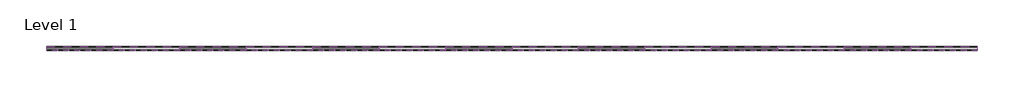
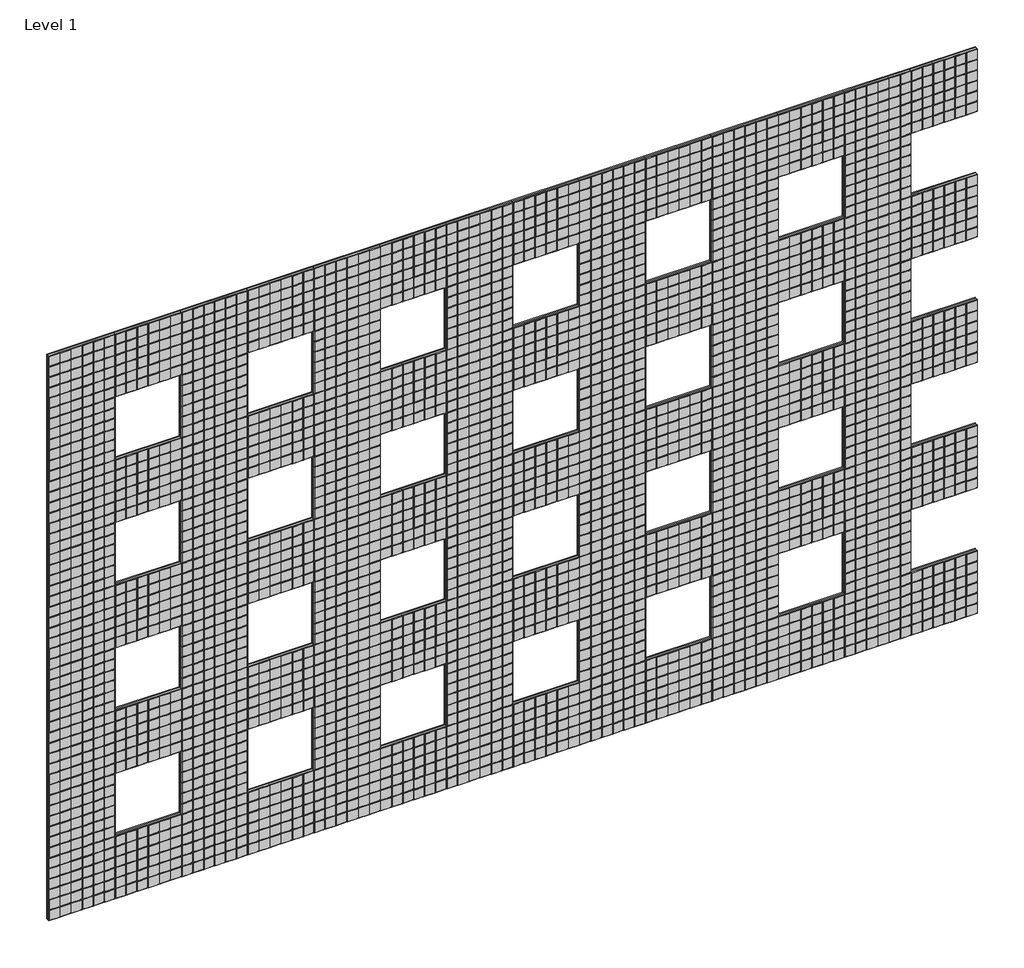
# One storey: 98 proxies.
"""IFC4 building model written with IfcOpenShell, lengths in millimetres."""

from ifc_helpers import new_model, si_unit, origin, place, context, project, spatial, transform, mapped, element, save
from components import pattern_element_a_fabd5e50, pattern_element_b_e8d87f1d, pattern_element_c_66ba2969

model = new_model("IFC4")

# Units and contexts
model_context = context("Model", 3, world=origin())
ifc_project = project(units=[si_unit("LENGTHUNIT", "METRE", prefix="MILLI")], contexts=[model_context])

# Site, building, storey
site = spatial("IfcSite", under=ifc_project)
building = spatial("IfcBuilding", under=site)
storey = spatial("IfcBuildingStorey", under=building, Name="Level 1", Elevation=0.0)

# Proxies
placement = place(None, origin())
pattern_element_a_shape = pattern_element_a_fabd5e50(model_context)
element("IfcBuildingElementProxy", 1, Name="FilzFelt_Waffle_Manufacturing Drawing : Pattern Element A", ObjectType="FilzFelt_Waffle_Manufacturing Drawing : Pattern Element A", at=placement, inside=storey, context=model_context, shape_type="MappedRepresentation", body=[
    mapped(pattern_element_a_shape, transform((-11214.5660217, 1047.5699583, 152.4), x_axis=(1.0, 0.0, 0.0), y_axis=(0.0, 0.0, 1.0), z_axis=(0.0, -1.0, 0.0))),
])
element("IfcBuildingElementProxy", 2, Name="FilzFelt_Waffle_Manufacturing Drawing : Pattern Element A", ObjectType="FilzFelt_Waffle_Manufacturing Drawing : Pattern Element A", at=placement, inside=storey, context=model_context, shape_type="MappedRepresentation", body=[
    mapped(pattern_element_a_shape, transform((-10604.9660217, 1047.5699583, 152.4), x_axis=(1.0, 0.0, 0.0), y_axis=(0.0, 0.0, 1.0), z_axis=(0.0, -1.0, 0.0))),
])
element("IfcBuildingElementProxy", 3, Name="FilzFelt_Waffle_Manufacturing Drawing : Pattern Element A", ObjectType="FilzFelt_Waffle_Manufacturing Drawing : Pattern Element A", at=placement, inside=storey, context=model_context, shape_type="MappedRepresentation", body=[
    mapped(pattern_element_a_shape, transform((-9995.3660217, 1047.5699583, 152.4), x_axis=(1.0, 0.0, 0.0), y_axis=(0.0, 0.0, 1.0), z_axis=(0.0, -1.0, 0.0))),
])
element("IfcBuildingElementProxy", 4, Name="FilzFelt_Waffle_Manufacturing Drawing : Pattern Element A", ObjectType="FilzFelt_Waffle_Manufacturing Drawing : Pattern Element A", at=placement, inside=storey, context=model_context, shape_type="MappedRepresentation", body=[
    mapped(pattern_element_a_shape, transform((-9385.7660217, 1047.5699583, 152.4), x_axis=(1.0, 0.0, 0.0), y_axis=(0.0, 0.0, 1.0), z_axis=(0.0, -1.0, 0.0))),
])
element("IfcBuildingElementProxy", 5, Name="FilzFelt_Waffle_Manufacturing Drawing : Pattern Element A", ObjectType="FilzFelt_Waffle_Manufacturing Drawing : Pattern Element A", at=placement, inside=storey, context=model_context, shape_type="MappedRepresentation", body=[
    mapped(pattern_element_a_shape, transform((-8776.1660217, 1047.5699583, 152.4), x_axis=(1.0, 0.0, 0.0), y_axis=(0.0, 0.0, 1.0), z_axis=(0.0, -1.0, 0.0))),
])
element("IfcBuildingElementProxy", 6, Name="FilzFelt_Waffle_Manufacturing Drawing : Pattern Element A", ObjectType="FilzFelt_Waffle_Manufacturing Drawing : Pattern Element A", at=placement, inside=storey, context=model_context, shape_type="MappedRepresentation", body=[
    mapped(pattern_element_a_shape, transform((-8166.5660217, 1047.5699583, 152.4), x_axis=(1.0, 0.0, 0.0), y_axis=(0.0, 0.0, 1.0), z_axis=(0.0, -1.0, 0.0))),
])
element("IfcBuildingElementProxy", 7, Name="FilzFelt_Waffle_Manufacturing Drawing : Pattern Element A", ObjectType="FilzFelt_Waffle_Manufacturing Drawing : Pattern Element A", at=placement, inside=storey, context=model_context, shape_type="MappedRepresentation", body=[
    mapped(pattern_element_a_shape, transform((-7556.9660217, 1047.5699583, 152.4), x_axis=(1.0, 0.0, 0.0), y_axis=(0.0, 0.0, 1.0), z_axis=(0.0, -1.0, 0.0))),
])
element("IfcBuildingElementProxy", 8, Name="FilzFelt_Waffle_Manufacturing Drawing : Pattern Element A", ObjectType="FilzFelt_Waffle_Manufacturing Drawing : Pattern Element A", at=placement, inside=storey, context=model_context, shape_type="MappedRepresentation", body=[
    mapped(pattern_element_a_shape, transform((-11214.5660217, 1047.5699583, 762.0), x_axis=(1.0, 0.0, 0.0), y_axis=(0.0, 0.0, 1.0), z_axis=(0.0, -1.0, 0.0))),
])
element("IfcBuildingElementProxy", 9, Name="FilzFelt_Waffle_Manufacturing Drawing : Pattern Element A", ObjectType="FilzFelt_Waffle_Manufacturing Drawing : Pattern Element A", at=placement, inside=storey, context=model_context, shape_type="MappedRepresentation", body=[
    mapped(pattern_element_a_shape, transform((-10604.9660217, 1047.5699583, 762.0), x_axis=(1.0, 0.0, 0.0), y_axis=(0.0, 0.0, 1.0), z_axis=(0.0, -1.0, 0.0))),
])
element("IfcBuildingElementProxy", 10, Name="FilzFelt_Waffle_Manufacturing Drawing : Pattern Element A", ObjectType="FilzFelt_Waffle_Manufacturing Drawing : Pattern Element A", at=placement, inside=storey, context=model_context, shape_type="MappedRepresentation", body=[
    mapped(pattern_element_a_shape, transform((-9995.3660217, 1047.5699583, 762.0), x_axis=(1.0, 0.0, 0.0), y_axis=(0.0, 0.0, 1.0), z_axis=(0.0, -1.0, 0.0))),
])
element("IfcBuildingElementProxy", 11, Name="FilzFelt_Waffle_Manufacturing Drawing : Pattern Element A", ObjectType="FilzFelt_Waffle_Manufacturing Drawing : Pattern Element A", at=placement, inside=storey, context=model_context, shape_type="MappedRepresentation", body=[
    mapped(pattern_element_a_shape, transform((-9385.7660217, 1047.5699583, 762.0), x_axis=(1.0, 0.0, 0.0), y_axis=(0.0, 0.0, 1.0), z_axis=(0.0, -1.0, 0.0))),
])
element("IfcBuildingElementProxy", 12, Name="FilzFelt_Waffle_Manufacturing Drawing : Pattern Element A", ObjectType="FilzFelt_Waffle_Manufacturing Drawing : Pattern Element A", at=placement, inside=storey, context=model_context, shape_type="MappedRepresentation", body=[
    mapped(pattern_element_a_shape, transform((-8776.1660217, 1047.5699583, 762.0), x_axis=(1.0, 0.0, 0.0), y_axis=(0.0, 0.0, 1.0), z_axis=(0.0, -1.0, 0.0))),
])
element("IfcBuildingElementProxy", 13, Name="FilzFelt_Waffle_Manufacturing Drawing : Pattern Element A", ObjectType="FilzFelt_Waffle_Manufacturing Drawing : Pattern Element A", at=placement, inside=storey, context=model_context, shape_type="MappedRepresentation", body=[
    mapped(pattern_element_a_shape, transform((-8166.5660217, 1047.5699583, 762.0), x_axis=(1.0, 0.0, 0.0), y_axis=(0.0, 0.0, 1.0), z_axis=(0.0, -1.0, 0.0))),
])
element("IfcBuildingElementProxy", 14, Name="FilzFelt_Waffle_Manufacturing Drawing : Pattern Element A", ObjectType="FilzFelt_Waffle_Manufacturing Drawing : Pattern Element A", at=placement, inside=storey, context=model_context, shape_type="MappedRepresentation", body=[
    mapped(pattern_element_a_shape, transform((-7556.9660217, 1047.5699583, 762.0), x_axis=(1.0, 0.0, 0.0), y_axis=(0.0, 0.0, 1.0), z_axis=(0.0, -1.0, 0.0))),
])
element("IfcBuildingElementProxy", 15, Name="FilzFelt_Waffle_Manufacturing Drawing : Pattern Element A", ObjectType="FilzFelt_Waffle_Manufacturing Drawing : Pattern Element A", at=placement, inside=storey, context=model_context, shape_type="MappedRepresentation", body=[
    mapped(pattern_element_a_shape, transform((-11214.5660217, 1047.5699583, 1371.6), x_axis=(1.0, 0.0, 0.0), y_axis=(0.0, 0.0, 1.0), z_axis=(0.0, -1.0, 0.0))),
])
element("IfcBuildingElementProxy", 16, Name="FilzFelt_Waffle_Manufacturing Drawing : Pattern Element A", ObjectType="FilzFelt_Waffle_Manufacturing Drawing : Pattern Element A", at=placement, inside=storey, context=model_context, shape_type="MappedRepresentation", body=[
    mapped(pattern_element_a_shape, transform((-10604.9660217, 1047.5699583, 1371.6), x_axis=(1.0, 0.0, 0.0), y_axis=(0.0, 0.0, 1.0), z_axis=(0.0, -1.0, 0.0))),
])
element("IfcBuildingElementProxy", 17, Name="FilzFelt_Waffle_Manufacturing Drawing : Pattern Element A", ObjectType="FilzFelt_Waffle_Manufacturing Drawing : Pattern Element A", at=placement, inside=storey, context=model_context, shape_type="MappedRepresentation", body=[
    mapped(pattern_element_a_shape, transform((-9995.3660217, 1047.5699583, 1371.6), x_axis=(1.0, 0.0, 0.0), y_axis=(0.0, 0.0, 1.0), z_axis=(0.0, -1.0, 0.0))),
])
element("IfcBuildingElementProxy", 18, Name="FilzFelt_Waffle_Manufacturing Drawing : Pattern Element A", ObjectType="FilzFelt_Waffle_Manufacturing Drawing : Pattern Element A", at=placement, inside=storey, context=model_context, shape_type="MappedRepresentation", body=[
    mapped(pattern_element_a_shape, transform((-9385.7660217, 1047.5699583, 1371.6), x_axis=(1.0, 0.0, 0.0), y_axis=(0.0, 0.0, 1.0), z_axis=(0.0, -1.0, 0.0))),
])
element("IfcBuildingElementProxy", 19, Name="FilzFelt_Waffle_Manufacturing Drawing : Pattern Element A", ObjectType="FilzFelt_Waffle_Manufacturing Drawing : Pattern Element A", at=placement, inside=storey, context=model_context, shape_type="MappedRepresentation", body=[
    mapped(pattern_element_a_shape, transform((-8776.1660217, 1047.5699583, 1371.6), x_axis=(1.0, 0.0, 0.0), y_axis=(0.0, 0.0, 1.0), z_axis=(0.0, -1.0, 0.0))),
])
element("IfcBuildingElementProxy", 20, Name="FilzFelt_Waffle_Manufacturing Drawing : Pattern Element A", ObjectType="FilzFelt_Waffle_Manufacturing Drawing : Pattern Element A", at=placement, inside=storey, context=model_context, shape_type="MappedRepresentation", body=[
    mapped(pattern_element_a_shape, transform((-8166.5660217, 1047.5699583, 1371.6), x_axis=(1.0, 0.0, 0.0), y_axis=(0.0, 0.0, 1.0), z_axis=(0.0, -1.0, 0.0))),
])
element("IfcBuildingElementProxy", 21, Name="FilzFelt_Waffle_Manufacturing Drawing : Pattern Element A", ObjectType="FilzFelt_Waffle_Manufacturing Drawing : Pattern Element A", at=placement, inside=storey, context=model_context, shape_type="MappedRepresentation", body=[
    mapped(pattern_element_a_shape, transform((-7556.9660217, 1047.5699583, 1371.6), x_axis=(1.0, 0.0, 0.0), y_axis=(0.0, 0.0, 1.0), z_axis=(0.0, -1.0, 0.0))),
])
element("IfcBuildingElementProxy", 22, Name="FilzFelt_Waffle_Manufacturing Drawing : Pattern Element A", ObjectType="FilzFelt_Waffle_Manufacturing Drawing : Pattern Element A", at=placement, inside=storey, context=model_context, shape_type="MappedRepresentation", body=[
    mapped(pattern_element_a_shape, transform((-11214.5660217, 1047.5699583, 1981.2), x_axis=(1.0, 0.0, 0.0), y_axis=(0.0, 0.0, 1.0), z_axis=(0.0, -1.0, 0.0))),
])
element("IfcBuildingElementProxy", 23, Name="FilzFelt_Waffle_Manufacturing Drawing : Pattern Element A", ObjectType="FilzFelt_Waffle_Manufacturing Drawing : Pattern Element A", at=placement, inside=storey, context=model_context, shape_type="MappedRepresentation", body=[
    mapped(pattern_element_a_shape, transform((-10604.9660217, 1047.5699583, 1981.2), x_axis=(1.0, 0.0, 0.0), y_axis=(0.0, 0.0, 1.0), z_axis=(0.0, -1.0, 0.0))),
])
element("IfcBuildingElementProxy", 24, Name="FilzFelt_Waffle_Manufacturing Drawing : Pattern Element A", ObjectType="FilzFelt_Waffle_Manufacturing Drawing : Pattern Element A", at=placement, inside=storey, context=model_context, shape_type="MappedRepresentation", body=[
    mapped(pattern_element_a_shape, transform((-9995.3660217, 1047.5699583, 1981.2), x_axis=(1.0, 0.0, 0.0), y_axis=(0.0, 0.0, 1.0), z_axis=(0.0, -1.0, 0.0))),
])
element("IfcBuildingElementProxy", 25, Name="FilzFelt_Waffle_Manufacturing Drawing : Pattern Element A", ObjectType="FilzFelt_Waffle_Manufacturing Drawing : Pattern Element A", at=placement, inside=storey, context=model_context, shape_type="MappedRepresentation", body=[
    mapped(pattern_element_a_shape, transform((-9385.7660217, 1047.5699583, 1981.2), x_axis=(1.0, 0.0, 0.0), y_axis=(0.0, 0.0, 1.0), z_axis=(0.0, -1.0, 0.0))),
])
element("IfcBuildingElementProxy", 26, Name="FilzFelt_Waffle_Manufacturing Drawing : Pattern Element A", ObjectType="FilzFelt_Waffle_Manufacturing Drawing : Pattern Element A", at=placement, inside=storey, context=model_context, shape_type="MappedRepresentation", body=[
    mapped(pattern_element_a_shape, transform((-8776.1660217, 1047.5699583, 1981.2), x_axis=(1.0, 0.0, 0.0), y_axis=(0.0, 0.0, 1.0), z_axis=(0.0, -1.0, 0.0))),
])
element("IfcBuildingElementProxy", 27, Name="FilzFelt_Waffle_Manufacturing Drawing : Pattern Element A", ObjectType="FilzFelt_Waffle_Manufacturing Drawing : Pattern Element A", at=placement, inside=storey, context=model_context, shape_type="MappedRepresentation", body=[
    mapped(pattern_element_a_shape, transform((-8166.5660217, 1047.5699583, 1981.2), x_axis=(1.0, 0.0, 0.0), y_axis=(0.0, 0.0, 1.0), z_axis=(0.0, -1.0, 0.0))),
])
element("IfcBuildingElementProxy", 28, Name="FilzFelt_Waffle_Manufacturing Drawing : Pattern Element A", ObjectType="FilzFelt_Waffle_Manufacturing Drawing : Pattern Element A", at=placement, inside=storey, context=model_context, shape_type="MappedRepresentation", body=[
    mapped(pattern_element_a_shape, transform((-7556.9660217, 1047.5699583, 1981.2), x_axis=(1.0, 0.0, 0.0), y_axis=(0.0, 0.0, 1.0), z_axis=(0.0, -1.0, 0.0))),
])
element("IfcBuildingElementProxy", 29, Name="FilzFelt_Waffle_Manufacturing Drawing : Pattern Element A", ObjectType="FilzFelt_Waffle_Manufacturing Drawing : Pattern Element A", at=placement, inside=storey, context=model_context, shape_type="MappedRepresentation", body=[
    mapped(pattern_element_a_shape, transform((-11214.5660217, 1047.5699583, 2590.8), x_axis=(1.0, 0.0, 0.0), y_axis=(0.0, 0.0, 1.0), z_axis=(0.0, -1.0, 0.0))),
])
element("IfcBuildingElementProxy", 30, Name="FilzFelt_Waffle_Manufacturing Drawing : Pattern Element A", ObjectType="FilzFelt_Waffle_Manufacturing Drawing : Pattern Element A", at=placement, inside=storey, context=model_context, shape_type="MappedRepresentation", body=[
    mapped(pattern_element_a_shape, transform((-10604.9660217, 1047.5699583, 2590.8), x_axis=(1.0, 0.0, 0.0), y_axis=(0.0, 0.0, 1.0), z_axis=(0.0, -1.0, 0.0))),
])
element("IfcBuildingElementProxy", 31, Name="FilzFelt_Waffle_Manufacturing Drawing : Pattern Element A", ObjectType="FilzFelt_Waffle_Manufacturing Drawing : Pattern Element A", at=placement, inside=storey, context=model_context, shape_type="MappedRepresentation", body=[
    mapped(pattern_element_a_shape, transform((-9995.3660217, 1047.5699583, 2590.8), x_axis=(1.0, 0.0, 0.0), y_axis=(0.0, 0.0, 1.0), z_axis=(0.0, -1.0, 0.0))),
])
element("IfcBuildingElementProxy", 32, Name="FilzFelt_Waffle_Manufacturing Drawing : Pattern Element A", ObjectType="FilzFelt_Waffle_Manufacturing Drawing : Pattern Element A", at=placement, inside=storey, context=model_context, shape_type="MappedRepresentation", body=[
    mapped(pattern_element_a_shape, transform((-9385.7660217, 1047.5699583, 2590.8), x_axis=(1.0, 0.0, 0.0), y_axis=(0.0, 0.0, 1.0), z_axis=(0.0, -1.0, 0.0))),
])
element("IfcBuildingElementProxy", 33, Name="FilzFelt_Waffle_Manufacturing Drawing : Pattern Element A", ObjectType="FilzFelt_Waffle_Manufacturing Drawing : Pattern Element A", at=placement, inside=storey, context=model_context, shape_type="MappedRepresentation", body=[
    mapped(pattern_element_a_shape, transform((-8776.1660217, 1047.5699583, 2590.8), x_axis=(1.0, 0.0, 0.0), y_axis=(0.0, 0.0, 1.0), z_axis=(0.0, -1.0, 0.0))),
])
element("IfcBuildingElementProxy", 34, Name="FilzFelt_Waffle_Manufacturing Drawing : Pattern Element A", ObjectType="FilzFelt_Waffle_Manufacturing Drawing : Pattern Element A", at=placement, inside=storey, context=model_context, shape_type="MappedRepresentation", body=[
    mapped(pattern_element_a_shape, transform((-8166.5660217, 1047.5699583, 2590.8), x_axis=(1.0, 0.0, 0.0), y_axis=(0.0, 0.0, 1.0), z_axis=(0.0, -1.0, 0.0))),
])
element("IfcBuildingElementProxy", 35, Name="FilzFelt_Waffle_Manufacturing Drawing : Pattern Element A", ObjectType="FilzFelt_Waffle_Manufacturing Drawing : Pattern Element A", at=placement, inside=storey, context=model_context, shape_type="MappedRepresentation", body=[
    mapped(pattern_element_a_shape, transform((-7556.9660217, 1047.5699583, 2590.8), x_axis=(1.0, 0.0, 0.0), y_axis=(0.0, 0.0, 1.0), z_axis=(0.0, -1.0, 0.0))),
])
pattern_element_b_shape = pattern_element_b_e8d87f1d(model_context)
element("IfcBuildingElementProxy", 36, Name="FilzFelt_Waffle_Manufacturing Drawing : Pattern Element B", ObjectType="FilzFelt_Waffle_Manufacturing Drawing : Pattern Element B", at=placement, inside=storey, context=model_context, shape_type="MappedRepresentation", body=[
    mapped(pattern_element_b_shape, transform((-10909.7660217, 1047.5699583, 152.4), x_axis=(1.0, 0.0, 0.0), y_axis=(0.0, 0.0, 1.0), z_axis=(0.0, -1.0, 0.0))),
])
element("IfcBuildingElementProxy", 37, Name="FilzFelt_Waffle_Manufacturing Drawing : Pattern Element B", ObjectType="FilzFelt_Waffle_Manufacturing Drawing : Pattern Element B", at=placement, inside=storey, context=model_context, shape_type="MappedRepresentation", body=[
    mapped(pattern_element_b_shape, transform((-10300.1660217, 1047.5699583, 152.4), x_axis=(1.0, 0.0, 0.0), y_axis=(0.0, 0.0, 1.0), z_axis=(0.0, -1.0, 0.0))),
])
element("IfcBuildingElementProxy", 38, Name="FilzFelt_Waffle_Manufacturing Drawing : Pattern Element B", ObjectType="FilzFelt_Waffle_Manufacturing Drawing : Pattern Element B", at=placement, inside=storey, context=model_context, shape_type="MappedRepresentation", body=[
    mapped(pattern_element_b_shape, transform((-9690.5660217, 1047.5699583, 152.4), x_axis=(1.0, 0.0, 0.0), y_axis=(0.0, 0.0, 1.0), z_axis=(0.0, -1.0, 0.0))),
])
element("IfcBuildingElementProxy", 39, Name="FilzFelt_Waffle_Manufacturing Drawing : Pattern Element B", ObjectType="FilzFelt_Waffle_Manufacturing Drawing : Pattern Element B", at=placement, inside=storey, context=model_context, shape_type="MappedRepresentation", body=[
    mapped(pattern_element_b_shape, transform((-9080.9660217, 1047.5699583, 152.4), x_axis=(1.0, 0.0, 0.0), y_axis=(0.0, 0.0, 1.0), z_axis=(0.0, -1.0, 0.0))),
])
element("IfcBuildingElementProxy", 40, Name="FilzFelt_Waffle_Manufacturing Drawing : Pattern Element B", ObjectType="FilzFelt_Waffle_Manufacturing Drawing : Pattern Element B", at=placement, inside=storey, context=model_context, shape_type="MappedRepresentation", body=[
    mapped(pattern_element_b_shape, transform((-8471.3660217, 1047.5699583, 152.4), x_axis=(1.0, 0.0, 0.0), y_axis=(0.0, 0.0, 1.0), z_axis=(0.0, -1.0, 0.0))),
])
element("IfcBuildingElementProxy", 41, Name="FilzFelt_Waffle_Manufacturing Drawing : Pattern Element B", ObjectType="FilzFelt_Waffle_Manufacturing Drawing : Pattern Element B", at=placement, inside=storey, context=model_context, shape_type="MappedRepresentation", body=[
    mapped(pattern_element_b_shape, transform((-7861.7660217, 1047.5699583, 152.4), x_axis=(1.0, 0.0, 0.0), y_axis=(0.0, 0.0, 1.0), z_axis=(0.0, -1.0, 0.0))),
])
element("IfcBuildingElementProxy", 42, Name="FilzFelt_Waffle_Manufacturing Drawing : Pattern Element B", ObjectType="FilzFelt_Waffle_Manufacturing Drawing : Pattern Element B", at=placement, inside=storey, context=model_context, shape_type="MappedRepresentation", body=[
    mapped(pattern_element_b_shape, transform((-7252.1660217, 1047.5699583, 152.4), x_axis=(1.0, 0.0, 0.0), y_axis=(0.0, 0.0, 1.0), z_axis=(0.0, -1.0, 0.0))),
])
element("IfcBuildingElementProxy", 43, Name="FilzFelt_Waffle_Manufacturing Drawing : Pattern Element B", ObjectType="FilzFelt_Waffle_Manufacturing Drawing : Pattern Element B", at=placement, inside=storey, context=model_context, shape_type="MappedRepresentation", body=[
    mapped(pattern_element_b_shape, transform((-10909.7660217, 1047.5699583, 762.0), x_axis=(1.0, 0.0, 0.0), y_axis=(0.0, 0.0, 1.0), z_axis=(0.0, -1.0, 0.0))),
])
element("IfcBuildingElementProxy", 44, Name="FilzFelt_Waffle_Manufacturing Drawing : Pattern Element B", ObjectType="FilzFelt_Waffle_Manufacturing Drawing : Pattern Element B", at=placement, inside=storey, context=model_context, shape_type="MappedRepresentation", body=[
    mapped(pattern_element_b_shape, transform((-10300.1660217, 1047.5699583, 762.0), x_axis=(1.0, 0.0, 0.0), y_axis=(0.0, 0.0, 1.0), z_axis=(0.0, -1.0, 0.0))),
])
element("IfcBuildingElementProxy", 45, Name="FilzFelt_Waffle_Manufacturing Drawing : Pattern Element B", ObjectType="FilzFelt_Waffle_Manufacturing Drawing : Pattern Element B", at=placement, inside=storey, context=model_context, shape_type="MappedRepresentation", body=[
    mapped(pattern_element_b_shape, transform((-9690.5660217, 1047.5699583, 762.0), x_axis=(1.0, 0.0, 0.0), y_axis=(0.0, 0.0, 1.0), z_axis=(0.0, -1.0, 0.0))),
])
element("IfcBuildingElementProxy", 46, Name="FilzFelt_Waffle_Manufacturing Drawing : Pattern Element B", ObjectType="FilzFelt_Waffle_Manufacturing Drawing : Pattern Element B", at=placement, inside=storey, context=model_context, shape_type="MappedRepresentation", body=[
    mapped(pattern_element_b_shape, transform((-9080.9660217, 1047.5699583, 762.0), x_axis=(1.0, 0.0, 0.0), y_axis=(0.0, 0.0, 1.0), z_axis=(0.0, -1.0, 0.0))),
])
element("IfcBuildingElementProxy", 47, Name="FilzFelt_Waffle_Manufacturing Drawing : Pattern Element B", ObjectType="FilzFelt_Waffle_Manufacturing Drawing : Pattern Element B", at=placement, inside=storey, context=model_context, shape_type="MappedRepresentation", body=[
    mapped(pattern_element_b_shape, transform((-8471.3660217, 1047.5699583, 762.0), x_axis=(1.0, 0.0, 0.0), y_axis=(0.0, 0.0, 1.0), z_axis=(0.0, -1.0, 0.0))),
])
element("IfcBuildingElementProxy", 48, Name="FilzFelt_Waffle_Manufacturing Drawing : Pattern Element B", ObjectType="FilzFelt_Waffle_Manufacturing Drawing : Pattern Element B", at=placement, inside=storey, context=model_context, shape_type="MappedRepresentation", body=[
    mapped(pattern_element_b_shape, transform((-7861.7660217, 1047.5699583, 762.0), x_axis=(1.0, 0.0, 0.0), y_axis=(0.0, 0.0, 1.0), z_axis=(0.0, -1.0, 0.0))),
])
element("IfcBuildingElementProxy", 49, Name="FilzFelt_Waffle_Manufacturing Drawing : Pattern Element B", ObjectType="FilzFelt_Waffle_Manufacturing Drawing : Pattern Element B", at=placement, inside=storey, context=model_context, shape_type="MappedRepresentation", body=[
    mapped(pattern_element_b_shape, transform((-7252.1660217, 1047.5699583, 762.0), x_axis=(1.0, 0.0, 0.0), y_axis=(0.0, 0.0, 1.0), z_axis=(0.0, -1.0, 0.0))),
])
element("IfcBuildingElementProxy", 50, Name="FilzFelt_Waffle_Manufacturing Drawing : Pattern Element B", ObjectType="FilzFelt_Waffle_Manufacturing Drawing : Pattern Element B", at=placement, inside=storey, context=model_context, shape_type="MappedRepresentation", body=[
    mapped(pattern_element_b_shape, transform((-10909.7660217, 1047.5699583, 1371.6), x_axis=(1.0, 0.0, 0.0), y_axis=(0.0, 0.0, 1.0), z_axis=(0.0, -1.0, 0.0))),
])
element("IfcBuildingElementProxy", 51, Name="FilzFelt_Waffle_Manufacturing Drawing : Pattern Element B", ObjectType="FilzFelt_Waffle_Manufacturing Drawing : Pattern Element B", at=placement, inside=storey, context=model_context, shape_type="MappedRepresentation", body=[
    mapped(pattern_element_b_shape, transform((-10300.1660217, 1047.5699583, 1371.6), x_axis=(1.0, 0.0, 0.0), y_axis=(0.0, 0.0, 1.0), z_axis=(0.0, -1.0, 0.0))),
])
element("IfcBuildingElementProxy", 52, Name="FilzFelt_Waffle_Manufacturing Drawing : Pattern Element B", ObjectType="FilzFelt_Waffle_Manufacturing Drawing : Pattern Element B", at=placement, inside=storey, context=model_context, shape_type="MappedRepresentation", body=[
    mapped(pattern_element_b_shape, transform((-9690.5660217, 1047.5699583, 1371.6), x_axis=(1.0, 0.0, 0.0), y_axis=(0.0, 0.0, 1.0), z_axis=(0.0, -1.0, 0.0))),
])
element("IfcBuildingElementProxy", 53, Name="FilzFelt_Waffle_Manufacturing Drawing : Pattern Element B", ObjectType="FilzFelt_Waffle_Manufacturing Drawing : Pattern Element B", at=placement, inside=storey, context=model_context, shape_type="MappedRepresentation", body=[
    mapped(pattern_element_b_shape, transform((-9080.9660217, 1047.5699583, 1371.6), x_axis=(1.0, 0.0, 0.0), y_axis=(0.0, 0.0, 1.0), z_axis=(0.0, -1.0, 0.0))),
])
element("IfcBuildingElementProxy", 54, Name="FilzFelt_Waffle_Manufacturing Drawing : Pattern Element B", ObjectType="FilzFelt_Waffle_Manufacturing Drawing : Pattern Element B", at=placement, inside=storey, context=model_context, shape_type="MappedRepresentation", body=[
    mapped(pattern_element_b_shape, transform((-8471.3660217, 1047.5699583, 1371.6), x_axis=(1.0, 0.0, 0.0), y_axis=(0.0, 0.0, 1.0), z_axis=(0.0, -1.0, 0.0))),
])
element("IfcBuildingElementProxy", 55, Name="FilzFelt_Waffle_Manufacturing Drawing : Pattern Element B", ObjectType="FilzFelt_Waffle_Manufacturing Drawing : Pattern Element B", at=placement, inside=storey, context=model_context, shape_type="MappedRepresentation", body=[
    mapped(pattern_element_b_shape, transform((-7861.7660217, 1047.5699583, 1371.6), x_axis=(1.0, 0.0, 0.0), y_axis=(0.0, 0.0, 1.0), z_axis=(0.0, -1.0, 0.0))),
])
element("IfcBuildingElementProxy", 56, Name="FilzFelt_Waffle_Manufacturing Drawing : Pattern Element B", ObjectType="FilzFelt_Waffle_Manufacturing Drawing : Pattern Element B", at=placement, inside=storey, context=model_context, shape_type="MappedRepresentation", body=[
    mapped(pattern_element_b_shape, transform((-7252.1660217, 1047.5699583, 1371.6), x_axis=(1.0, 0.0, 0.0), y_axis=(0.0, 0.0, 1.0), z_axis=(0.0, -1.0, 0.0))),
])
element("IfcBuildingElementProxy", 57, Name="FilzFelt_Waffle_Manufacturing Drawing : Pattern Element B", ObjectType="FilzFelt_Waffle_Manufacturing Drawing : Pattern Element B", at=placement, inside=storey, context=model_context, shape_type="MappedRepresentation", body=[
    mapped(pattern_element_b_shape, transform((-10909.7660217, 1047.5699583, 1981.2), x_axis=(1.0, 0.0, 0.0), y_axis=(0.0, 0.0, 1.0), z_axis=(0.0, -1.0, 0.0))),
])
element("IfcBuildingElementProxy", 58, Name="FilzFelt_Waffle_Manufacturing Drawing : Pattern Element B", ObjectType="FilzFelt_Waffle_Manufacturing Drawing : Pattern Element B", at=placement, inside=storey, context=model_context, shape_type="MappedRepresentation", body=[
    mapped(pattern_element_b_shape, transform((-10300.1660217, 1047.5699583, 1981.2), x_axis=(1.0, 0.0, 0.0), y_axis=(0.0, 0.0, 1.0), z_axis=(0.0, -1.0, 0.0))),
])
element("IfcBuildingElementProxy", 59, Name="FilzFelt_Waffle_Manufacturing Drawing : Pattern Element B", ObjectType="FilzFelt_Waffle_Manufacturing Drawing : Pattern Element B", at=placement, inside=storey, context=model_context, shape_type="MappedRepresentation", body=[
    mapped(pattern_element_b_shape, transform((-9690.5660217, 1047.5699583, 1981.2), x_axis=(1.0, 0.0, 0.0), y_axis=(0.0, 0.0, 1.0), z_axis=(0.0, -1.0, 0.0))),
])
element("IfcBuildingElementProxy", 60, Name="FilzFelt_Waffle_Manufacturing Drawing : Pattern Element B", ObjectType="FilzFelt_Waffle_Manufacturing Drawing : Pattern Element B", at=placement, inside=storey, context=model_context, shape_type="MappedRepresentation", body=[
    mapped(pattern_element_b_shape, transform((-9080.9660217, 1047.5699583, 1981.2), x_axis=(1.0, 0.0, 0.0), y_axis=(0.0, 0.0, 1.0), z_axis=(0.0, -1.0, 0.0))),
])
element("IfcBuildingElementProxy", 61, Name="FilzFelt_Waffle_Manufacturing Drawing : Pattern Element B", ObjectType="FilzFelt_Waffle_Manufacturing Drawing : Pattern Element B", at=placement, inside=storey, context=model_context, shape_type="MappedRepresentation", body=[
    mapped(pattern_element_b_shape, transform((-8471.3660217, 1047.5699583, 1981.2), x_axis=(1.0, 0.0, 0.0), y_axis=(0.0, 0.0, 1.0), z_axis=(0.0, -1.0, 0.0))),
])
element("IfcBuildingElementProxy", 62, Name="FilzFelt_Waffle_Manufacturing Drawing : Pattern Element B", ObjectType="FilzFelt_Waffle_Manufacturing Drawing : Pattern Element B", at=placement, inside=storey, context=model_context, shape_type="MappedRepresentation", body=[
    mapped(pattern_element_b_shape, transform((-7861.7660217, 1047.5699583, 1981.2), x_axis=(1.0, 0.0, 0.0), y_axis=(0.0, 0.0, 1.0), z_axis=(0.0, -1.0, 0.0))),
])
element("IfcBuildingElementProxy", 63, Name="FilzFelt_Waffle_Manufacturing Drawing : Pattern Element B", ObjectType="FilzFelt_Waffle_Manufacturing Drawing : Pattern Element B", at=placement, inside=storey, context=model_context, shape_type="MappedRepresentation", body=[
    mapped(pattern_element_b_shape, transform((-7252.1660217, 1047.5699583, 1981.2), x_axis=(1.0, 0.0, 0.0), y_axis=(0.0, 0.0, 1.0), z_axis=(0.0, -1.0, 0.0))),
])
element("IfcBuildingElementProxy", 64, Name="FilzFelt_Waffle_Manufacturing Drawing : Pattern Element B", ObjectType="FilzFelt_Waffle_Manufacturing Drawing : Pattern Element B", at=placement, inside=storey, context=model_context, shape_type="MappedRepresentation", body=[
    mapped(pattern_element_b_shape, transform((-10909.7660217, 1047.5699583, 2590.8), x_axis=(1.0, 0.0, 0.0), y_axis=(0.0, 0.0, 1.0), z_axis=(0.0, -1.0, 0.0))),
])
element("IfcBuildingElementProxy", 65, Name="FilzFelt_Waffle_Manufacturing Drawing : Pattern Element B", ObjectType="FilzFelt_Waffle_Manufacturing Drawing : Pattern Element B", at=placement, inside=storey, context=model_context, shape_type="MappedRepresentation", body=[
    mapped(pattern_element_b_shape, transform((-10300.1660217, 1047.5699583, 2590.8), x_axis=(1.0, 0.0, 0.0), y_axis=(0.0, 0.0, 1.0), z_axis=(0.0, -1.0, 0.0))),
])
element("IfcBuildingElementProxy", 66, Name="FilzFelt_Waffle_Manufacturing Drawing : Pattern Element B", ObjectType="FilzFelt_Waffle_Manufacturing Drawing : Pattern Element B", at=placement, inside=storey, context=model_context, shape_type="MappedRepresentation", body=[
    mapped(pattern_element_b_shape, transform((-9690.5660217, 1047.5699583, 2590.8), x_axis=(1.0, 0.0, 0.0), y_axis=(0.0, 0.0, 1.0), z_axis=(0.0, -1.0, 0.0))),
])
element("IfcBuildingElementProxy", 67, Name="FilzFelt_Waffle_Manufacturing Drawing : Pattern Element B", ObjectType="FilzFelt_Waffle_Manufacturing Drawing : Pattern Element B", at=placement, inside=storey, context=model_context, shape_type="MappedRepresentation", body=[
    mapped(pattern_element_b_shape, transform((-9080.9660217, 1047.5699583, 2590.8), x_axis=(1.0, 0.0, 0.0), y_axis=(0.0, 0.0, 1.0), z_axis=(0.0, -1.0, 0.0))),
])
element("IfcBuildingElementProxy", 68, Name="FilzFelt_Waffle_Manufacturing Drawing : Pattern Element B", ObjectType="FilzFelt_Waffle_Manufacturing Drawing : Pattern Element B", at=placement, inside=storey, context=model_context, shape_type="MappedRepresentation", body=[
    mapped(pattern_element_b_shape, transform((-8471.3660217, 1047.5699583, 2590.8), x_axis=(1.0, 0.0, 0.0), y_axis=(0.0, 0.0, 1.0), z_axis=(0.0, -1.0, 0.0))),
])
element("IfcBuildingElementProxy", 69, Name="FilzFelt_Waffle_Manufacturing Drawing : Pattern Element B", ObjectType="FilzFelt_Waffle_Manufacturing Drawing : Pattern Element B", at=placement, inside=storey, context=model_context, shape_type="MappedRepresentation", body=[
    mapped(pattern_element_b_shape, transform((-7861.7660217, 1047.5699583, 2590.8), x_axis=(1.0, 0.0, 0.0), y_axis=(0.0, 0.0, 1.0), z_axis=(0.0, -1.0, 0.0))),
])
element("IfcBuildingElementProxy", 70, Name="FilzFelt_Waffle_Manufacturing Drawing : Pattern Element B", ObjectType="FilzFelt_Waffle_Manufacturing Drawing : Pattern Element B", at=placement, inside=storey, context=model_context, shape_type="MappedRepresentation", body=[
    mapped(pattern_element_b_shape, transform((-7252.1660217, 1047.5699583, 2590.8), x_axis=(1.0, 0.0, 0.0), y_axis=(0.0, 0.0, 1.0), z_axis=(0.0, -1.0, 0.0))),
])
pattern_element_c_shape = pattern_element_c_66ba2969(model_context)
element("IfcBuildingElementProxy", 71, Name="FilzFelt_Waffle_Manufacturing Drawing : Pattern Element C", ObjectType="FilzFelt_Waffle_Manufacturing Drawing : Pattern Element C", at=placement, inside=storey, context=model_context, shape_type="MappedRepresentation", body=[
    mapped(pattern_element_c_shape, transform((-11214.5660217, 1047.5699583, 457.2), x_axis=(1.0, 0.0, 0.0), y_axis=(0.0, 0.0, 1.0), z_axis=(0.0, -1.0, 0.0))),
])
element("IfcBuildingElementProxy", 72, Name="FilzFelt_Waffle_Manufacturing Drawing : Pattern Element C", ObjectType="FilzFelt_Waffle_Manufacturing Drawing : Pattern Element C", at=placement, inside=storey, context=model_context, shape_type="MappedRepresentation", body=[
    mapped(pattern_element_c_shape, transform((-10604.9660217, 1047.5699583, 457.2), x_axis=(1.0, 0.0, 0.0), y_axis=(0.0, 0.0, 1.0), z_axis=(0.0, -1.0, 0.0))),
])
element("IfcBuildingElementProxy", 73, Name="FilzFelt_Waffle_Manufacturing Drawing : Pattern Element C", ObjectType="FilzFelt_Waffle_Manufacturing Drawing : Pattern Element C", at=placement, inside=storey, context=model_context, shape_type="MappedRepresentation", body=[
    mapped(pattern_element_c_shape, transform((-9995.3660217, 1047.5699583, 457.2), x_axis=(1.0, 0.0, 0.0), y_axis=(0.0, 0.0, 1.0), z_axis=(0.0, -1.0, 0.0))),
])
element("IfcBuildingElementProxy", 74, Name="FilzFelt_Waffle_Manufacturing Drawing : Pattern Element C", ObjectType="FilzFelt_Waffle_Manufacturing Drawing : Pattern Element C", at=placement, inside=storey, context=model_context, shape_type="MappedRepresentation", body=[
    mapped(pattern_element_c_shape, transform((-9385.7660217, 1047.5699583, 457.2), x_axis=(1.0, 0.0, 0.0), y_axis=(0.0, 0.0, 1.0), z_axis=(0.0, -1.0, 0.0))),
])
element("IfcBuildingElementProxy", 75, Name="FilzFelt_Waffle_Manufacturing Drawing : Pattern Element C", ObjectType="FilzFelt_Waffle_Manufacturing Drawing : Pattern Element C", at=placement, inside=storey, context=model_context, shape_type="MappedRepresentation", body=[
    mapped(pattern_element_c_shape, transform((-8776.1660217, 1047.5699583, 457.2), x_axis=(1.0, 0.0, 0.0), y_axis=(0.0, 0.0, 1.0), z_axis=(0.0, -1.0, 0.0))),
])
element("IfcBuildingElementProxy", 76, Name="FilzFelt_Waffle_Manufacturing Drawing : Pattern Element C", ObjectType="FilzFelt_Waffle_Manufacturing Drawing : Pattern Element C", at=placement, inside=storey, context=model_context, shape_type="MappedRepresentation", body=[
    mapped(pattern_element_c_shape, transform((-8166.5660217, 1047.5699583, 457.2), x_axis=(1.0, 0.0, 0.0), y_axis=(0.0, 0.0, 1.0), z_axis=(0.0, -1.0, 0.0))),
])
element("IfcBuildingElementProxy", 77, Name="FilzFelt_Waffle_Manufacturing Drawing : Pattern Element C", ObjectType="FilzFelt_Waffle_Manufacturing Drawing : Pattern Element C", at=placement, inside=storey, context=model_context, shape_type="MappedRepresentation", body=[
    mapped(pattern_element_c_shape, transform((-7556.9660217, 1047.5699583, 457.2), x_axis=(1.0, 0.0, 0.0), y_axis=(0.0, 0.0, 1.0), z_axis=(0.0, -1.0, 0.0))),
])
element("IfcBuildingElementProxy", 78, Name="FilzFelt_Waffle_Manufacturing Drawing : Pattern Element C", ObjectType="FilzFelt_Waffle_Manufacturing Drawing : Pattern Element C", at=placement, inside=storey, context=model_context, shape_type="MappedRepresentation", body=[
    mapped(pattern_element_c_shape, transform((-11214.5660217, 1047.5699583, 1066.8), x_axis=(1.0, 0.0, 0.0), y_axis=(0.0, 0.0, 1.0), z_axis=(0.0, -1.0, 0.0))),
])
element("IfcBuildingElementProxy", 79, Name="FilzFelt_Waffle_Manufacturing Drawing : Pattern Element C", ObjectType="FilzFelt_Waffle_Manufacturing Drawing : Pattern Element C", at=placement, inside=storey, context=model_context, shape_type="MappedRepresentation", body=[
    mapped(pattern_element_c_shape, transform((-10604.9660217, 1047.5699583, 1066.8), x_axis=(1.0, 0.0, 0.0), y_axis=(0.0, 0.0, 1.0), z_axis=(0.0, -1.0, 0.0))),
])
element("IfcBuildingElementProxy", 80, Name="FilzFelt_Waffle_Manufacturing Drawing : Pattern Element C", ObjectType="FilzFelt_Waffle_Manufacturing Drawing : Pattern Element C", at=placement, inside=storey, context=model_context, shape_type="MappedRepresentation", body=[
    mapped(pattern_element_c_shape, transform((-9995.3660217, 1047.5699583, 1066.8), x_axis=(1.0, 0.0, 0.0), y_axis=(0.0, 0.0, 1.0), z_axis=(0.0, -1.0, 0.0))),
])
element("IfcBuildingElementProxy", 81, Name="FilzFelt_Waffle_Manufacturing Drawing : Pattern Element C", ObjectType="FilzFelt_Waffle_Manufacturing Drawing : Pattern Element C", at=placement, inside=storey, context=model_context, shape_type="MappedRepresentation", body=[
    mapped(pattern_element_c_shape, transform((-9385.7660217, 1047.5699583, 1066.8), x_axis=(1.0, 0.0, 0.0), y_axis=(0.0, 0.0, 1.0), z_axis=(0.0, -1.0, 0.0))),
])
element("IfcBuildingElementProxy", 82, Name="FilzFelt_Waffle_Manufacturing Drawing : Pattern Element C", ObjectType="FilzFelt_Waffle_Manufacturing Drawing : Pattern Element C", at=placement, inside=storey, context=model_context, shape_type="MappedRepresentation", body=[
    mapped(pattern_element_c_shape, transform((-8776.1660217, 1047.5699583, 1066.8), x_axis=(1.0, 0.0, 0.0), y_axis=(0.0, 0.0, 1.0), z_axis=(0.0, -1.0, 0.0))),
])
element("IfcBuildingElementProxy", 83, Name="FilzFelt_Waffle_Manufacturing Drawing : Pattern Element C", ObjectType="FilzFelt_Waffle_Manufacturing Drawing : Pattern Element C", at=placement, inside=storey, context=model_context, shape_type="MappedRepresentation", body=[
    mapped(pattern_element_c_shape, transform((-8166.5660217, 1047.5699583, 1066.8), x_axis=(1.0, 0.0, 0.0), y_axis=(0.0, 0.0, 1.0), z_axis=(0.0, -1.0, 0.0))),
])
element("IfcBuildingElementProxy", 84, Name="FilzFelt_Waffle_Manufacturing Drawing : Pattern Element C", ObjectType="FilzFelt_Waffle_Manufacturing Drawing : Pattern Element C", at=placement, inside=storey, context=model_context, shape_type="MappedRepresentation", body=[
    mapped(pattern_element_c_shape, transform((-7556.9660217, 1047.5699583, 1066.8), x_axis=(1.0, 0.0, 0.0), y_axis=(0.0, 0.0, 1.0), z_axis=(0.0, -1.0, 0.0))),
])
element("IfcBuildingElementProxy", 85, Name="FilzFelt_Waffle_Manufacturing Drawing : Pattern Element C", ObjectType="FilzFelt_Waffle_Manufacturing Drawing : Pattern Element C", at=placement, inside=storey, context=model_context, shape_type="MappedRepresentation", body=[
    mapped(pattern_element_c_shape, transform((-11214.5660217, 1047.5699583, 1676.4), x_axis=(1.0, 0.0, 0.0), y_axis=(0.0, 0.0, 1.0), z_axis=(0.0, -1.0, 0.0))),
])
element("IfcBuildingElementProxy", 86, Name="FilzFelt_Waffle_Manufacturing Drawing : Pattern Element C", ObjectType="FilzFelt_Waffle_Manufacturing Drawing : Pattern Element C", at=placement, inside=storey, context=model_context, shape_type="MappedRepresentation", body=[
    mapped(pattern_element_c_shape, transform((-10604.9660217, 1047.5699583, 1676.4), x_axis=(1.0, 0.0, 0.0), y_axis=(0.0, 0.0, 1.0), z_axis=(0.0, -1.0, 0.0))),
])
element("IfcBuildingElementProxy", 87, Name="FilzFelt_Waffle_Manufacturing Drawing : Pattern Element C", ObjectType="FilzFelt_Waffle_Manufacturing Drawing : Pattern Element C", at=placement, inside=storey, context=model_context, shape_type="MappedRepresentation", body=[
    mapped(pattern_element_c_shape, transform((-9995.3660217, 1047.5699583, 1676.4), x_axis=(1.0, 0.0, 0.0), y_axis=(0.0, 0.0, 1.0), z_axis=(0.0, -1.0, 0.0))),
])
element("IfcBuildingElementProxy", 88, Name="FilzFelt_Waffle_Manufacturing Drawing : Pattern Element C", ObjectType="FilzFelt_Waffle_Manufacturing Drawing : Pattern Element C", at=placement, inside=storey, context=model_context, shape_type="MappedRepresentation", body=[
    mapped(pattern_element_c_shape, transform((-9385.7660217, 1047.5699583, 1676.4), x_axis=(1.0, 0.0, 0.0), y_axis=(0.0, 0.0, 1.0), z_axis=(0.0, -1.0, 0.0))),
])
element("IfcBuildingElementProxy", 89, Name="FilzFelt_Waffle_Manufacturing Drawing : Pattern Element C", ObjectType="FilzFelt_Waffle_Manufacturing Drawing : Pattern Element C", at=placement, inside=storey, context=model_context, shape_type="MappedRepresentation", body=[
    mapped(pattern_element_c_shape, transform((-8776.1660217, 1047.5699583, 1676.4), x_axis=(1.0, 0.0, 0.0), y_axis=(0.0, 0.0, 1.0), z_axis=(0.0, -1.0, 0.0))),
])
element("IfcBuildingElementProxy", 90, Name="FilzFelt_Waffle_Manufacturing Drawing : Pattern Element C", ObjectType="FilzFelt_Waffle_Manufacturing Drawing : Pattern Element C", at=placement, inside=storey, context=model_context, shape_type="MappedRepresentation", body=[
    mapped(pattern_element_c_shape, transform((-8166.5660217, 1047.5699583, 1676.4), x_axis=(1.0, 0.0, 0.0), y_axis=(0.0, 0.0, 1.0), z_axis=(0.0, -1.0, 0.0))),
])
element("IfcBuildingElementProxy", 91, Name="FilzFelt_Waffle_Manufacturing Drawing : Pattern Element C", ObjectType="FilzFelt_Waffle_Manufacturing Drawing : Pattern Element C", at=placement, inside=storey, context=model_context, shape_type="MappedRepresentation", body=[
    mapped(pattern_element_c_shape, transform((-7556.9660217, 1047.5699583, 1676.4), x_axis=(1.0, 0.0, 0.0), y_axis=(0.0, 0.0, 1.0), z_axis=(0.0, -1.0, 0.0))),
])
element("IfcBuildingElementProxy", 92, Name="FilzFelt_Waffle_Manufacturing Drawing : Pattern Element C", ObjectType="FilzFelt_Waffle_Manufacturing Drawing : Pattern Element C", at=placement, inside=storey, context=model_context, shape_type="MappedRepresentation", body=[
    mapped(pattern_element_c_shape, transform((-11214.5660217, 1047.5699583, 2286.0), x_axis=(1.0, 0.0, 0.0), y_axis=(0.0, 0.0, 1.0), z_axis=(0.0, -1.0, 0.0))),
])
element("IfcBuildingElementProxy", 93, Name="FilzFelt_Waffle_Manufacturing Drawing : Pattern Element C", ObjectType="FilzFelt_Waffle_Manufacturing Drawing : Pattern Element C", at=placement, inside=storey, context=model_context, shape_type="MappedRepresentation", body=[
    mapped(pattern_element_c_shape, transform((-10604.9660217, 1047.5699583, 2286.0), x_axis=(1.0, 0.0, 0.0), y_axis=(0.0, 0.0, 1.0), z_axis=(0.0, -1.0, 0.0))),
])
element("IfcBuildingElementProxy", 94, Name="FilzFelt_Waffle_Manufacturing Drawing : Pattern Element C", ObjectType="FilzFelt_Waffle_Manufacturing Drawing : Pattern Element C", at=placement, inside=storey, context=model_context, shape_type="MappedRepresentation", body=[
    mapped(pattern_element_c_shape, transform((-9995.3660217, 1047.5699583, 2286.0), x_axis=(1.0, 0.0, 0.0), y_axis=(0.0, 0.0, 1.0), z_axis=(0.0, -1.0, 0.0))),
])
element("IfcBuildingElementProxy", 95, Name="FilzFelt_Waffle_Manufacturing Drawing : Pattern Element C", ObjectType="FilzFelt_Waffle_Manufacturing Drawing : Pattern Element C", at=placement, inside=storey, context=model_context, shape_type="MappedRepresentation", body=[
    mapped(pattern_element_c_shape, transform((-9385.7660217, 1047.5699583, 2286.0), x_axis=(1.0, 0.0, 0.0), y_axis=(0.0, 0.0, 1.0), z_axis=(0.0, -1.0, 0.0))),
])
element("IfcBuildingElementProxy", 96, Name="FilzFelt_Waffle_Manufacturing Drawing : Pattern Element C", ObjectType="FilzFelt_Waffle_Manufacturing Drawing : Pattern Element C", at=placement, inside=storey, context=model_context, shape_type="MappedRepresentation", body=[
    mapped(pattern_element_c_shape, transform((-8776.1660217, 1047.5699583, 2286.0), x_axis=(1.0, 0.0, 0.0), y_axis=(0.0, 0.0, 1.0), z_axis=(0.0, -1.0, 0.0))),
])
element("IfcBuildingElementProxy", 97, Name="FilzFelt_Waffle_Manufacturing Drawing : Pattern Element C", ObjectType="FilzFelt_Waffle_Manufacturing Drawing : Pattern Element C", at=placement, inside=storey, context=model_context, shape_type="MappedRepresentation", body=[
    mapped(pattern_element_c_shape, transform((-8166.5660217, 1047.5699583, 2286.0), x_axis=(1.0, 0.0, 0.0), y_axis=(0.0, 0.0, 1.0), z_axis=(0.0, -1.0, 0.0))),
])
element("IfcBuildingElementProxy", 98, Name="FilzFelt_Waffle_Manufacturing Drawing : Pattern Element C", ObjectType="FilzFelt_Waffle_Manufacturing Drawing : Pattern Element C", at=placement, inside=storey, context=model_context, shape_type="MappedRepresentation", body=[
    mapped(pattern_element_c_shape, transform((-7556.9660217, 1047.5699583, 2286.0), x_axis=(1.0, 0.0, 0.0), y_axis=(0.0, 0.0, 1.0), z_axis=(0.0, -1.0, 0.0))),
])

save(model, "model.ifc")
